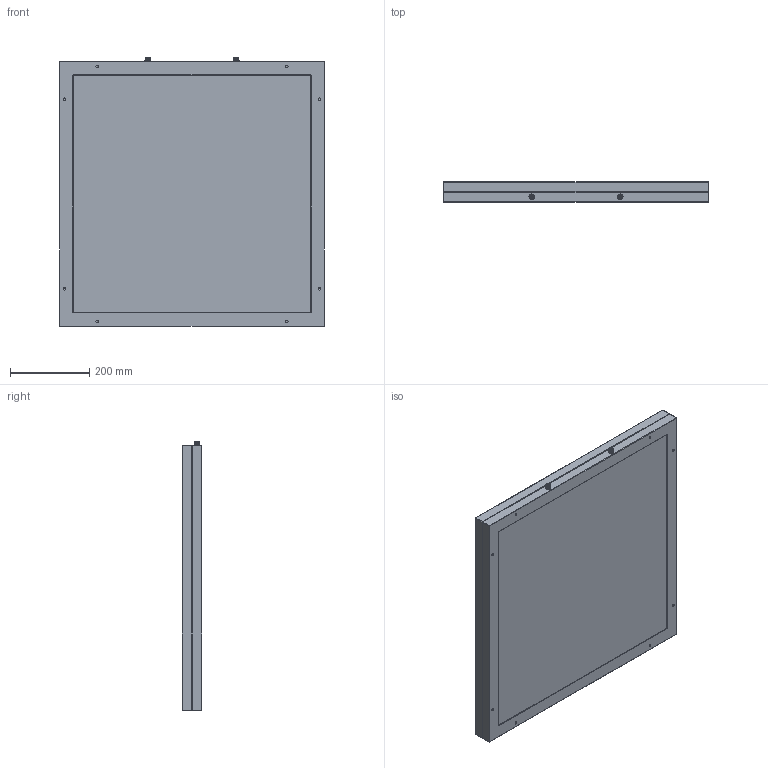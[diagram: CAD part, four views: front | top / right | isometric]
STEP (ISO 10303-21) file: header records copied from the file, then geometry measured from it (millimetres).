
FILE_DESCRIPTION (( 'STEP AP214' ), '1' );
FILE_NAME ('BL6060.STEP', '2015-03-18T10:29:27', ( '' ), ( '' ), 'SwSTEP 2.0', 'SolidWorks 2010', '' );
FILE_SCHEMA (( 'AUTOMOTIVE_DESIGN' ));
Length unit declared in the file: millimetre
Products named in the file (6): Support 200x200; SW3DPS-FISCHER_DBP_103_Z053-130-DEFAULT_Default; BL6060; Diffusant 200x200; cadre support 270x270; cadre 270x270
Assembly tree (6 placements, depth 2):
  BL6060
    cadre 270x270
    SW3DPS-FISCHER_DBP_103_Z053-130-DEFAULT_Default  x2
    cadre support 270x270
    Support 200x200
    Diffusant 200x200
Bounding box: 670 x 50 x 680 mm (x, y, z)
Volume: 7307831.7 mm3; surface area: 2069177.6 mm2
Topology: 4 solids, 10 shells, 742 faces, 1890 edges, 1186 vertices
Faces by surface type: cylinder 348, plane 142, cone 120, bspline 100, torus 16, sphere 16
Entity records: 20476 total; most frequent: CARTESIAN_POINT 8294, ORIENTED_EDGE 2140, DIRECTION 1841, EDGE_CURVE 1073, AXIS2_PLACEMENT_3D 727, VERTEX_POINT 682, EDGE_LOOP 501, ADVANCED_FACE 445
